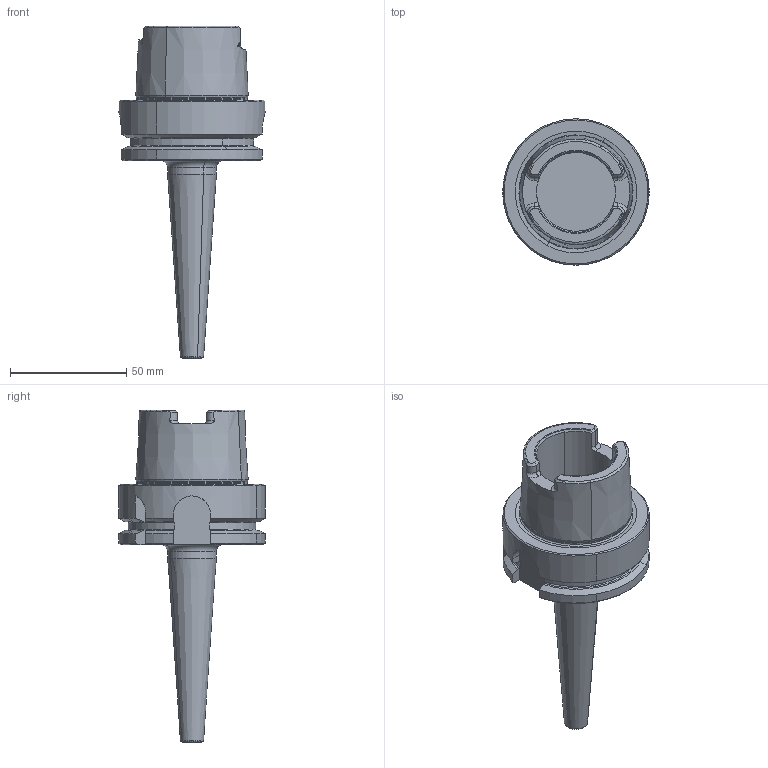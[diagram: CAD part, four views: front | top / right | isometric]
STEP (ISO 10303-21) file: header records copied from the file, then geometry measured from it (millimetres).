
FILE_DESCRIPTION(('CATIA V5 STEP','CAx-IF Rec.Pracs.--- Model Styling and Organization---1.2---2011-12-15'),'2;1');
FILE_NAME('\\nas01\drv1\utils\eitdev\rte\eit\transmagicconvert\db\out\4504565 L.stp','2014-03-23T08:58:57+00:00',('none'),('none'),'CATIA Version 5 Release 21 SP 5 (IN-10)','CATIA V5 STEP AP214','none');
FILE_SCHEMA(('AUTOMOTIVE_DESIGN { 1 0 10303 214 1 1 1 1 }'));
Length unit declared in the file: millimetre
Products named in the file (1): 60972724_0 Holder-Tool HSK A 63 SRK 5X85
Bounding box: 63 x 63 x 143 mm (x, y, z)
Volume: 108333.5 mm3; surface area: 24916.3 mm2
Topology: 1 solids, 1 shells, 136 faces, 351 edges, 220 vertices
Faces by surface type: plane 41, cone 35, cylinder 32, torus 28
Entity records: 4290 total; most frequent: CARTESIAN_POINT 1356, ORIENTED_EDGE 702, DIRECTION 434, EDGE_CURVE 351, AXIS2_PLACEMENT_3D 232, VERTEX_POINT 220, CIRCLE 151, EDGE_LOOP 139
